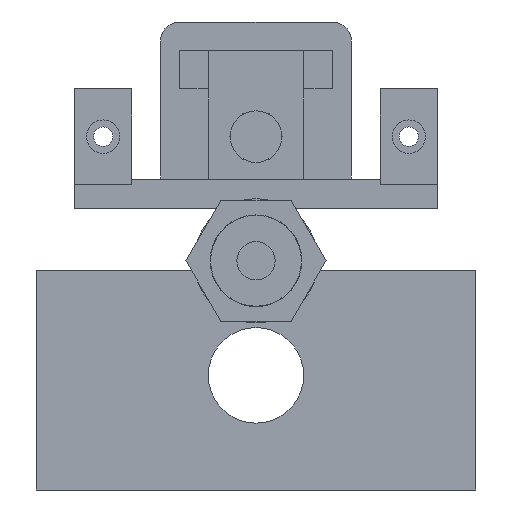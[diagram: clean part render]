
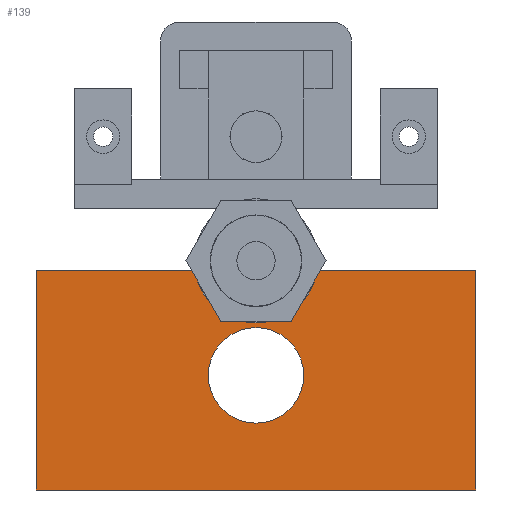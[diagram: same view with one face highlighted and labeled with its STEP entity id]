
A CAD part, left-side view. The second image highlights one B-rep face of the part: STEP entity #139.
In plain terms, the highlighted planar face has unit normal (-1, 0, 0).
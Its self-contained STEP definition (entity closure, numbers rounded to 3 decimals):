
#139 = ADVANCED_FACE('',(#140,#259),#154,.F.);
#140 = FACE_BOUND('',#141,.F.);
#141 = EDGE_LOOP('',(#142,#177,#205,#233));
#142 = ORIENTED_EDGE('',*,*,#143,.F.);
#143 = EDGE_CURVE('',#144,#146,#148,.T.);
#144 = VERTEX_POINT('',#145);
#145 = CARTESIAN_POINT('',(-2.5,-23.,0.));
#146 = VERTEX_POINT('',#147);
#147 = CARTESIAN_POINT('',(-2.5,-23.,23.));
#148 = SURFACE_CURVE('',#149,(#153,#165),.PCURVE_S1.);
#149 = LINE('',#150,#151);
#150 = CARTESIAN_POINT('',(-2.5,-23.,0.));
#151 = VECTOR('',#152,1.);
#152 = DIRECTION('',(0.,0.,1.));
#153 = PCURVE('',#154,#159);
#154 = PLANE('',#155);
#155 = AXIS2_PLACEMENT_3D('',#156,#157,#158);
#156 = CARTESIAN_POINT('',(-2.5,-23.,0.));
#157 = DIRECTION('',(1.,0.,0.));
#158 = DIRECTION('',(0.,0.,1.));
#159 = DEFINITIONAL_REPRESENTATION('',(#160),#164);
#160 = LINE('',#161,#162);
#161 = CARTESIAN_POINT('',(0.,0.));
#162 = VECTOR('',#163,1.);
#163 = DIRECTION('',(1.,0.));
#164 = ( GEOMETRIC_REPRESENTATION_CONTEXT(2) 
PARAMETRIC_REPRESENTATION_CONTEXT() REPRESENTATION_CONTEXT('2D SPACE',''
  ) );
#165 = PCURVE('',#166,#171);
#166 = PLANE('',#167);
#167 = AXIS2_PLACEMENT_3D('',#168,#169,#170);
#168 = CARTESIAN_POINT('',(-2.5,-23.,0.));
#169 = DIRECTION('',(0.,1.,0.));
#170 = DIRECTION('',(0.,0.,1.));
#171 = DEFINITIONAL_REPRESENTATION('',(#172),#176);
#172 = LINE('',#173,#174);
#173 = CARTESIAN_POINT('',(0.,0.));
#174 = VECTOR('',#175,1.);
#175 = DIRECTION('',(1.,0.));
#176 = ( GEOMETRIC_REPRESENTATION_CONTEXT(2) 
PARAMETRIC_REPRESENTATION_CONTEXT() REPRESENTATION_CONTEXT('2D SPACE',''
  ) );
#177 = ORIENTED_EDGE('',*,*,#178,.T.);
#178 = EDGE_CURVE('',#144,#179,#181,.T.);
#179 = VERTEX_POINT('',#180);
#180 = CARTESIAN_POINT('',(-2.5,23.,0.));
#181 = SURFACE_CURVE('',#182,(#186,#193),.PCURVE_S1.);
#182 = LINE('',#183,#184);
#183 = CARTESIAN_POINT('',(-2.5,-23.,0.));
#184 = VECTOR('',#185,1.);
#185 = DIRECTION('',(0.,1.,0.));
#186 = PCURVE('',#154,#187);
#187 = DEFINITIONAL_REPRESENTATION('',(#188),#192);
#188 = LINE('',#189,#190);
#189 = CARTESIAN_POINT('',(0.,0.));
#190 = VECTOR('',#191,1.);
#191 = DIRECTION('',(0.,-1.));
#192 = ( GEOMETRIC_REPRESENTATION_CONTEXT(2) 
PARAMETRIC_REPRESENTATION_CONTEXT() REPRESENTATION_CONTEXT('2D SPACE',''
  ) );
#193 = PCURVE('',#194,#199);
#194 = PLANE('',#195);
#195 = AXIS2_PLACEMENT_3D('',#196,#197,#198);
#196 = CARTESIAN_POINT('',(-2.5,-23.,0.));
#197 = DIRECTION('',(0.,0.,1.));
#198 = DIRECTION('',(1.,0.,0.));
#199 = DEFINITIONAL_REPRESENTATION('',(#200),#204);
#200 = LINE('',#201,#202);
#201 = CARTESIAN_POINT('',(0.,0.));
#202 = VECTOR('',#203,1.);
#203 = DIRECTION('',(0.,1.));
#204 = ( GEOMETRIC_REPRESENTATION_CONTEXT(2) 
PARAMETRIC_REPRESENTATION_CONTEXT() REPRESENTATION_CONTEXT('2D SPACE',''
  ) );
#205 = ORIENTED_EDGE('',*,*,#206,.T.);
#206 = EDGE_CURVE('',#179,#207,#209,.T.);
#207 = VERTEX_POINT('',#208);
#208 = CARTESIAN_POINT('',(-2.5,23.,23.));
#209 = SURFACE_CURVE('',#210,(#214,#221),.PCURVE_S1.);
#210 = LINE('',#211,#212);
#211 = CARTESIAN_POINT('',(-2.5,23.,0.));
#212 = VECTOR('',#213,1.);
#213 = DIRECTION('',(0.,0.,1.));
#214 = PCURVE('',#154,#215);
#215 = DEFINITIONAL_REPRESENTATION('',(#216),#220);
#216 = LINE('',#217,#218);
#217 = CARTESIAN_POINT('',(0.,-46.));
#218 = VECTOR('',#219,1.);
#219 = DIRECTION('',(1.,0.));
#220 = ( GEOMETRIC_REPRESENTATION_CONTEXT(2) 
PARAMETRIC_REPRESENTATION_CONTEXT() REPRESENTATION_CONTEXT('2D SPACE',''
  ) );
#221 = PCURVE('',#222,#227);
#222 = PLANE('',#223);
#223 = AXIS2_PLACEMENT_3D('',#224,#225,#226);
#224 = CARTESIAN_POINT('',(-2.5,23.,0.));
#225 = DIRECTION('',(0.,1.,0.));
#226 = DIRECTION('',(0.,0.,1.));
#227 = DEFINITIONAL_REPRESENTATION('',(#228),#232);
#228 = LINE('',#229,#230);
#229 = CARTESIAN_POINT('',(0.,0.));
#230 = VECTOR('',#231,1.);
#231 = DIRECTION('',(1.,0.));
#232 = ( GEOMETRIC_REPRESENTATION_CONTEXT(2) 
PARAMETRIC_REPRESENTATION_CONTEXT() REPRESENTATION_CONTEXT('2D SPACE',''
  ) );
#233 = ORIENTED_EDGE('',*,*,#234,.F.);
#234 = EDGE_CURVE('',#146,#207,#235,.T.);
#235 = SURFACE_CURVE('',#236,(#240,#247),.PCURVE_S1.);
#236 = LINE('',#237,#238);
#237 = CARTESIAN_POINT('',(-2.5,-23.,23.));
#238 = VECTOR('',#239,1.);
#239 = DIRECTION('',(0.,1.,0.));
#240 = PCURVE('',#154,#241);
#241 = DEFINITIONAL_REPRESENTATION('',(#242),#246);
#242 = LINE('',#243,#244);
#243 = CARTESIAN_POINT('',(23.,0.));
#244 = VECTOR('',#245,1.);
#245 = DIRECTION('',(0.,-1.));
#246 = ( GEOMETRIC_REPRESENTATION_CONTEXT(2) 
PARAMETRIC_REPRESENTATION_CONTEXT() REPRESENTATION_CONTEXT('2D SPACE',''
  ) );
#247 = PCURVE('',#248,#253);
#248 = PLANE('',#249);
#249 = AXIS2_PLACEMENT_3D('',#250,#251,#252);
#250 = CARTESIAN_POINT('',(-2.5,-23.,23.));
#251 = DIRECTION('',(0.,0.,1.));
#252 = DIRECTION('',(1.,0.,0.));
#253 = DEFINITIONAL_REPRESENTATION('',(#254),#258);
#254 = LINE('',#255,#256);
#255 = CARTESIAN_POINT('',(0.,0.));
#256 = VECTOR('',#257,1.);
#257 = DIRECTION('',(0.,1.));
#258 = ( GEOMETRIC_REPRESENTATION_CONTEXT(2) 
PARAMETRIC_REPRESENTATION_CONTEXT() REPRESENTATION_CONTEXT('2D SPACE',''
  ) );
#259 = FACE_BOUND('',#260,.F.);
#260 = EDGE_LOOP('',(#261));
#261 = ORIENTED_EDGE('',*,*,#262,.T.);
#262 = EDGE_CURVE('',#263,#263,#265,.T.);
#263 = VERTEX_POINT('',#264);
#264 = CARTESIAN_POINT('',(-2.5,5.,12.));
#265 = SURFACE_CURVE('',#266,(#271,#282),.PCURVE_S1.);
#266 = CIRCLE('',#267,5.);
#267 = AXIS2_PLACEMENT_3D('',#268,#269,#270);
#268 = CARTESIAN_POINT('',(-2.5,0.,12.));
#269 = DIRECTION('',(-1.,0.,0.));
#270 = DIRECTION('',(0.,1.,0.));
#271 = PCURVE('',#154,#272);
#272 = DEFINITIONAL_REPRESENTATION('',(#273),#281);
#273 = ( BOUNDED_CURVE() B_SPLINE_CURVE(2,(#274,#275,#276,#277,#278,#279
,#280),.UNSPECIFIED.,.T.,.F.) B_SPLINE_CURVE_WITH_KNOTS((1,2,2,2,2,1),(
    -2.094,0.,2.094,4.189,6.283,
8.378),.UNSPECIFIED.) CURVE() GEOMETRIC_REPRESENTATION_ITEM() 
RATIONAL_B_SPLINE_CURVE((1.,0.5,1.,0.5,1.,0.5,1.)) REPRESENTATION_ITEM(
  '') );
#274 = CARTESIAN_POINT('',(12.,-28.));
#275 = CARTESIAN_POINT('',(3.34,-28.));
#276 = CARTESIAN_POINT('',(7.67,-20.5));
#277 = CARTESIAN_POINT('',(12.,-13.));
#278 = CARTESIAN_POINT('',(16.33,-20.5));
#279 = CARTESIAN_POINT('',(20.66,-28.));
#280 = CARTESIAN_POINT('',(12.,-28.));
#281 = ( GEOMETRIC_REPRESENTATION_CONTEXT(2) 
PARAMETRIC_REPRESENTATION_CONTEXT() REPRESENTATION_CONTEXT('2D SPACE',''
  ) );
#282 = PCURVE('',#283,#288);
#283 = CYLINDRICAL_SURFACE('',#284,5.);
#284 = AXIS2_PLACEMENT_3D('',#285,#286,#287);
#285 = CARTESIAN_POINT('',(-2.6,0.,12.));
#286 = DIRECTION('',(-1.,-0.,-0.));
#287 = DIRECTION('',(0.,1.,0.));
#288 = DEFINITIONAL_REPRESENTATION('',(#289),#293);
#289 = LINE('',#290,#291);
#290 = CARTESIAN_POINT('',(-6.283,-0.1));
#291 = VECTOR('',#292,1.);
#292 = DIRECTION('',(1.,-0.));
#293 = ( GEOMETRIC_REPRESENTATION_CONTEXT(2) 
PARAMETRIC_REPRESENTATION_CONTEXT() REPRESENTATION_CONTEXT('2D SPACE',''
  ) );
